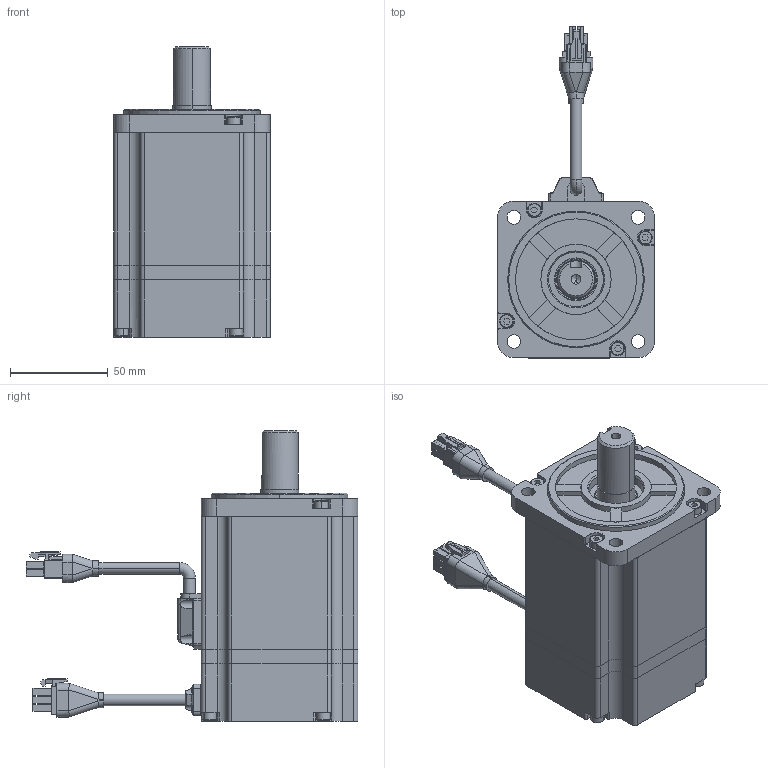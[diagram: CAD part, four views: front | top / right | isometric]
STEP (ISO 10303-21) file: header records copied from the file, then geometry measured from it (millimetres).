
FILE_DESCRIPTION (( 'STEP AP203' ), '1' );
FILE_NAME ('750W-002.STEP', '2019-08-11T08:54:25', ( '1' ), ( 'MideaGroup IT' ), 'SwSTEP 2.0', 'SolidWorks 2012', '' );
FILE_SCHEMA (( 'CONFIG_CONTROL_DESIGN' ));
Length unit declared in the file: millimetre
Products named in the file (20): 750W-002; 毀嚏盄揤裔郪璃; 毀嚏盄傷赽揤裔; 晤鎢ん盄傷赽; 晤鎢ん盄揤裔躇猾; 晤鎢ん盄揤裔; 雄薯盄揤裔郪璃; 雄薯盄傷赽裔; M2.5X5_GB_CROSS_SCREWS_TYPE3 M2.5X8-8-N; 雄薯盄; 雄薯盄傷赽; 雄薯盄躇猾菜; 雄薯盄揤裔; 萇儂粣-001; 6004_Rolling bearings 6004 GB 276-94; M4x20; 綴裔-001; ヶ傷裔-001; 綴傷裔-001; 儂褲-001
Assembly tree (33 placements, depth 3):
  750W-002
    儂褲-001
    綴傷裔-001
    ヶ傷裔-001
    綴裔-001
    M4x20  x8
    6004_Rolling bearings 6004 GB 276-94
    萇儂粣-001
    雄薯盄揤裔郪璃
      雄薯盄揤裔
      雄薯盄躇猾菜
      雄薯盄傷赽
      雄薯盄
      M2.5X5_GB_CROSS_SCREWS_TYPE3 M2.5X8-8-N  x4
      雄薯盄傷赽裔
    毀嚏盄揤裔郪璃
      晤鎢ん盄揤裔
      晤鎢ん盄揤裔躇猾
      晤鎢ん盄傷赽
      M2.5X5_GB_CROSS_SCREWS_TYPE3 M2.5X8-8-N  x4
      毀嚏盄傷赽揤裔
Bounding box: 80.2 x 170 x 149 mm (x, y, z)
Volume: 281904.1 mm3; surface area: 145236.9 mm2
Topology: 33 solids, 59 shells, 1543 faces, 4376 edges, 2914 vertices
Faces by surface type: plane 724, cylinder 585, cone 97, torus 75, sphere 48, bspline 14
Entity records: 46603 total; most frequent: CARTESIAN_POINT 11383, DIRECTION 6848, ORIENTED_EDGE 6739, EDGE_CURVE 3550, AXIS2_PLACEMENT_3D 2464, VERTEX_POINT 2374, VECTOR 1920, LINE 1920
